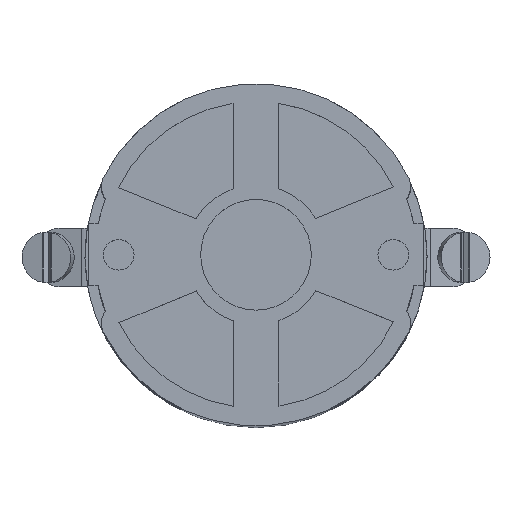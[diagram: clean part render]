
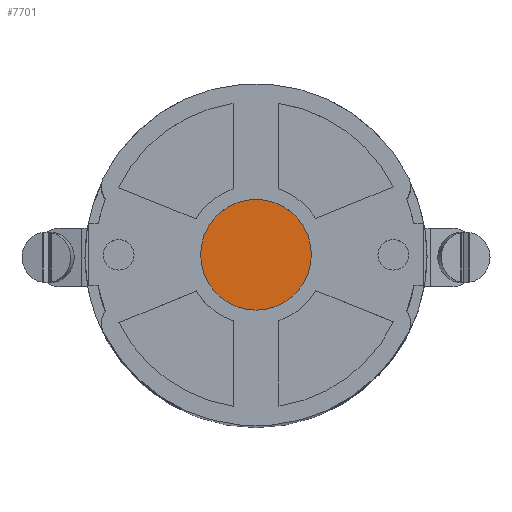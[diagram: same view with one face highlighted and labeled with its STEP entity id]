
A CAD part, top view. The second image highlights one B-rep face of the part: STEP entity #7701.
In plain terms, the highlighted planar face has unit normal (0, 0, 1).
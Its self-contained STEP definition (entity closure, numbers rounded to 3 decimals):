
#1032=FACE_OUTER_BOUND('',#10796,.T.);
#7701=ADVANCED_FACE('',(#1032),#9148,.T.);
#9148=PLANE('',#28265);
#10796=EDGE_LOOP('',(#13210));
#13210=ORIENTED_EDGE('',*,*,#23686,.F.);
#20839=VERTEX_POINT('',#38875);
#23686=EDGE_CURVE('',#20839,#20839,#27299,.T.);
#27299=CIRCLE('',#28264,6.15);
#28264=AXIS2_PLACEMENT_3D('',#38874,#31356,#31357);
#28265=AXIS2_PLACEMENT_3D('',#38876,#31358,#31359);
#31356=DIRECTION('',(0.,0.,-1.));
#31357=DIRECTION('',(1.,0.,0.));
#31358=DIRECTION('',(0.,0.,1.));
#31359=DIRECTION('',(1.,0.,0.));
#38874=CARTESIAN_POINT('',(0.,0.,108.5));
#38875=CARTESIAN_POINT('',(6.15,0.,108.5));
#38876=CARTESIAN_POINT('',(0.,0.,108.5));
